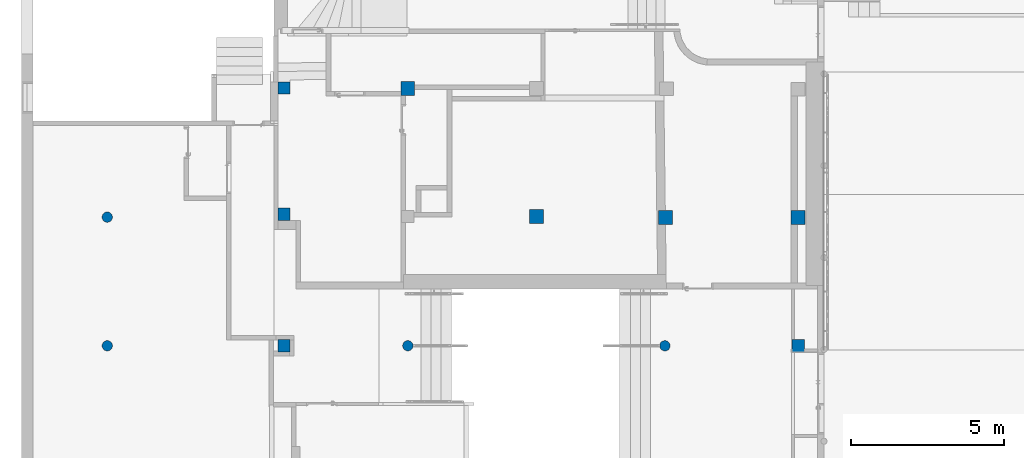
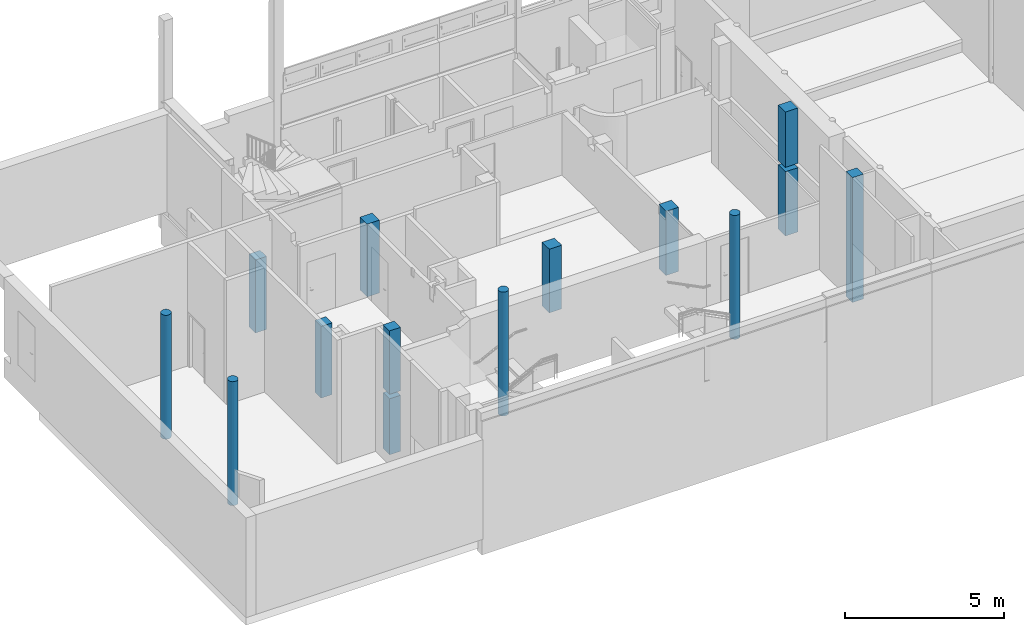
# One storey, part 1 of 39: 12 columns.
"""IFC4 building model written with IfcOpenShell, lengths in metres."""

from ifc_helpers import new_model, entity, si_unit, converted_unit, derived_unit, direction, frame, origin, place, context, subcontext, project, spatial, indexed_curve, outline, extrude, source, transform, mapped, material, type_object, type_shapes, element, save


model = new_model("IFC4")

# Units and contexts
model_context = context("Model", 3, precision=1e-05, world=origin(), true_north=direction((6.12303176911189e-17, 1.0)))
body_context = subcontext(model_context, "Body", "Model", "MODEL_VIEW")
ifc_project = project(units=[si_unit("LENGTHUNIT", "METRE"), si_unit("AREAUNIT", "SQUARE_METRE"), si_unit("VOLUMEUNIT", "CUBIC_METRE"), converted_unit("PLANEANGLEUNIT", "DEGREE", entity("IfcRatioMeasure", 0.0174532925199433), si_unit("PLANEANGLEUNIT", "RADIAN"), dimensions=[0, 0, 0, 0, 0, 0, 0]), si_unit("MASSUNIT", "GRAM", prefix="KILO"), derived_unit("MASSDENSITYUNIT", [(si_unit("MASSUNIT", "GRAM", prefix="KILO"), 1), (si_unit("LENGTHUNIT", "METRE"), -3)]), derived_unit("MOMENTOFINERTIAUNIT", [(si_unit("LENGTHUNIT", "METRE"), 4)]), si_unit("TIMEUNIT", "SECOND"), si_unit("FREQUENCYUNIT", "HERTZ"), si_unit("THERMODYNAMICTEMPERATUREUNIT", "DEGREE_CELSIUS"), derived_unit("THERMALTRANSMITTANCEUNIT", [(si_unit("MASSUNIT", "GRAM", prefix="KILO"), 1), (si_unit("THERMODYNAMICTEMPERATUREUNIT", "KELVIN"), -1), (si_unit("TIMEUNIT", "SECOND"), -3)]), derived_unit("VOLUMETRICFLOWRATEUNIT", [(si_unit("LENGTHUNIT", "METRE"), 3), (si_unit("TIMEUNIT", "SECOND"), -1)]), si_unit("ELECTRICCURRENTUNIT", "AMPERE"), si_unit("ELECTRICVOLTAGEUNIT", "VOLT"), si_unit("POWERUNIT", "WATT"), si_unit("FORCEUNIT", "NEWTON", prefix="KILO"), si_unit("ILLUMINANCEUNIT", "LUX"), si_unit("LUMINOUSFLUXUNIT", "LUMEN"), si_unit("LUMINOUSINTENSITYUNIT", "CANDELA"), derived_unit("USERDEFINED", [(si_unit("MASSUNIT", "GRAM", prefix="KILO"), -1), (si_unit("LENGTHUNIT", "METRE"), -2), (si_unit("TIMEUNIT", "SECOND"), 3), (si_unit("LUMINOUSFLUXUNIT", "LUMEN"), 1)]), derived_unit("LINEARVELOCITYUNIT", [(si_unit("LENGTHUNIT", "METRE"), 1), (si_unit("TIMEUNIT", "SECOND"), -1)]), si_unit("PRESSUREUNIT", "PASCAL"), derived_unit("USERDEFINED", [(si_unit("LENGTHUNIT", "METRE"), -2), (si_unit("MASSUNIT", "GRAM", prefix="KILO"), 1), (si_unit("TIMEUNIT", "SECOND"), -2)]), derived_unit("LINEARFORCEUNIT", [(si_unit("MASSUNIT", "GRAM", prefix="KILO"), 1), (si_unit("LENGTHUNIT", "METRE"), 1), (si_unit("TIMEUNIT", "SECOND"), -2), (si_unit("LENGTHUNIT", "METRE"), -1)]), derived_unit("PLANARFORCEUNIT", [(si_unit("MASSUNIT", "GRAM", prefix="KILO"), 1), (si_unit("LENGTHUNIT", "METRE"), 1), (si_unit("TIMEUNIT", "SECOND"), -2), (si_unit("LENGTHUNIT", "METRE"), -2)])], contexts=[model_context])

# Site, building, storey
site_placement = place(None, origin())
site = spatial("IfcSite", under=ifc_project, at=site_placement, Name="Default", CompositionType="ELEMENT")
building_placement = place(site_placement, origin())
building = spatial("IfcBuilding", under=site, at=building_placement, Name="HOTEL CONSULAIRE BOULOGNE SUR MER", CompositionType="ELEMENT")
storey_placement = place(building_placement, frame((0.0, 0.0, -5.02343668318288)))
storey = spatial("IfcBuildingStorey", under=building, at=storey_placement, Name="SS3", CompositionType="ELEMENT", Elevation=-5.02343668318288)

# Columns
ifc_material = material(Name="Maçonnerie - Béton coulé sur place", Category="Béton")
column_type_1 = type_object("IfcColumnType", Name="Poteau béton - Arrondi:340", PredefinedType="COLUMN", material=ifc_material)
shared_shape_1 = source(origin(), body_context, "Body", "SweptSolid", [
    extrude(outline(indexed_curve([(0.169999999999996, -2.97350308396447e-16), (0.161679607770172, 0.0525328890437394), (0.137532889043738, 0.0999234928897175), (0.099923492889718, 0.137532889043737), (0.0525328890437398, 0.161679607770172), (1.86135598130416e-16, 0.169999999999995), (-0.0525328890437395, 0.161679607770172), (-0.0999234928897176, 0.137532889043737), (-0.137532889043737, 0.0999234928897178), (-0.161679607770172, 0.0525328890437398), (-0.169999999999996, 1.7643968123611e-16), (-0.161679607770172, -0.0525328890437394), (-0.137532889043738, -0.0999234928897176), (-0.0999234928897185, -0.137532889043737), (-0.0525328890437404, -0.161679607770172), (-8.18583797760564e-16, -0.169999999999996), (0.0525328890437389, -0.161679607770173), (0.0999234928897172, -0.137532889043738), (0.137532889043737, -0.099923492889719), (0.161679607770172, -0.052532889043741), (0.169999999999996, -2.97350308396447e-16)], self_intersect=False)), frame((0.0, 0.0, -5.02343668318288)), (0.0, 0.0, 1.0), 4.75343668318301),
])
type_shapes(column_type_1, [shared_shape_1])
for number, where in (
    (1, (7.17117677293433, -24.015909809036, 5.02343668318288)),
    (2, (-1.22882322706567, -24.015909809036, 5.02343668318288)),
    (3, (-11.0458232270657, -19.8159098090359, 5.02343668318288)),
):
    element("IfcColumn", number, at=place(storey_placement, frame(where)), inside=storey, type_object=column_type_1, material=ifc_material, Name="Poteau béton - Arrondi:340", ObjectType="Poteau béton - Arrondi:340", PredefinedType="COLUMN", context=body_context, shape_type="MappedRepresentation", body=[
        mapped(shared_shape_1, transform((0.0, 0.0, 0.0), scale=1.0)),
    ])
column_type_2 = type_object("IfcColumnType", Name="Poteau béton - Arrondi:340", PredefinedType="COLUMN", material=ifc_material)
shared_shape_2 = source(origin(), body_context, "Body", "SweptSolid", [
    extrude(outline(indexed_curve([(0.169999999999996, 0.0), (0.161679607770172, 0.0525328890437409), (0.137532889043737, 0.0999234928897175), (0.0999234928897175, 0.137532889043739), (0.0525328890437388, 0.161679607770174), (0.0, 0.169999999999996), (-0.0525328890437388, 0.161679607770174), (-0.0999234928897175, 0.137532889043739), (-0.137532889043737, 0.0999234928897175), (-0.161679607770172, 0.0525328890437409), (-0.169999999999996, 0.0), (-0.161679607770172, -0.0525328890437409), (-0.137532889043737, -0.0999234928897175), (-0.0999234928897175, -0.137532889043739), (-0.0525328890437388, -0.161679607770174), (0.0, -0.169999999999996), (0.0525328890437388, -0.161679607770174), (0.0999234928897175, -0.137532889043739), (0.137532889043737, -0.0999234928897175), (0.161679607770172, -0.0525328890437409), (0.169999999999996, 0.0)], self_intersect=False)), frame((-11.0458232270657, -24.0159098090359, -5.02343668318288)), (0.0, 0.0, 1.0), 4.75343668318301),
])
type_shapes(column_type_2, [shared_shape_2])
column_1_placement = place(storey_placement, frame((0.0, 0.0, 5.02343668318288)))
element("IfcColumn", 4, at=column_1_placement, inside=storey, type_object=column_type_2, material=ifc_material, Name="Poteau béton - Arrondi:340", ObjectType="Poteau béton - Arrondi:340", PredefinedType="COLUMN", context=body_context, shape_type="MappedRepresentation", body=[
    mapped(shared_shape_2, transform((0.0, 0.0, 0.0), scale=1.0)),
])
column_type_3 = type_object("IfcColumnType", Name="Poteau béton - Rectangulaire:400x400", PredefinedType="COLUMN", material=ifc_material)
shared_shape_3 = source(origin(), body_context, "Body", "SweptSolid", [
    extrude(outline(indexed_curve([(-0.199999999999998, -0.2), (0.200000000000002, -0.2), (0.199999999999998, 0.2), (-0.200000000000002, 0.2), (-0.199999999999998, -0.2)], self_intersect=False)), frame((-5.27550814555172, -19.7222313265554, -5.45343668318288), z_axis=(0.0, 0.0, 1.0), x_axis=(0.0, -1.0, 0.0)), (0.0, 0.0, 1.0), 2.74999999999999),
])
type_shapes(column_type_3, [shared_shape_3])
column_2_placement = place(storey_placement, frame((0.0, 0.0, 5.02343668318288)))
element("IfcColumn", 5, at=column_2_placement, inside=storey, type_object=column_type_3, material=ifc_material, Name="Poteau béton - Rectangulaire:400x400", ObjectType="Poteau béton - Rectangulaire:400x400", PredefinedType="COLUMN", context=body_context, shape_type="MappedRepresentation", body=[
    mapped(shared_shape_3, transform((0.0, 0.0, 0.0), scale=1.0)),
])
column_type_4 = type_object("IfcColumnType", Name="Poteau béton - Rectangulaire:450X450", PredefinedType="COLUMN", material=ifc_material)
shared_shape_4 = source(origin(), body_context, "Body", "SweptSolid", [
    extrude(outline(indexed_curve([(-0.225000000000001, -0.225), (0.225000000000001, -0.225), (0.225000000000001, 0.225), (-0.225000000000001, 0.225), (-0.225000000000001, -0.225)], self_intersect=False)), frame((2.97117677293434, -19.792909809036, -5.00143668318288), z_axis=(0.0, 0.0, 1.0), x_axis=(0.0, -1.0, 0.0)), (0.0, 0.0, 1.0), 2.44199999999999),
])
type_shapes(column_type_4, [shared_shape_4])
column_3_placement = place(storey_placement, frame((0.0, 0.0, 5.02343668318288)))
element("IfcColumn", 6, at=column_3_placement, inside=storey, type_object=column_type_4, material=ifc_material, Name="Poteau béton - Rectangulaire:450X450", ObjectType="Poteau béton - Rectangulaire:450X450", PredefinedType="COLUMN", context=body_context, shape_type="MappedRepresentation", body=[
    mapped(shared_shape_4, transform((0.0, 0.0, 0.0), scale=1.0)),
])
column_type_5 = type_object("IfcColumnType", Name="Poteau béton - Rectangulaire:450X450", PredefinedType="COLUMN", material=ifc_material)
shared_shape_5 = source(origin(), body_context, "Body", "SweptSolid", [
    extrude(outline(indexed_curve([(-0.225000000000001, -0.225), (0.224999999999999, -0.225), (0.225000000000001, 0.225), (-0.224999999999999, 0.225), (-0.225000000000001, -0.225)], self_intersect=False)), frame((-1.22882322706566, -15.615909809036, -5.45343668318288), z_axis=(0.0, 0.0, 1.0), x_axis=(0.0, -1.0, 0.0)), (0.0, 0.0, 1.0), 2.79499999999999),
])
type_shapes(column_type_5, [shared_shape_5])
column_4_placement = place(storey_placement, frame((0.0, 0.0, 5.02343668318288)))
element("IfcColumn", 7, at=column_4_placement, inside=storey, type_object=column_type_5, material=ifc_material, Name="Poteau béton - Rectangulaire:450X450", ObjectType="Poteau béton - Rectangulaire:450X450", PredefinedType="COLUMN", context=body_context, shape_type="MappedRepresentation", body=[
    mapped(shared_shape_5, transform((0.0, 0.0, 0.0), scale=1.0)),
])
column_type_6 = type_object("IfcColumnType", Name="Poteau béton - Rectangulaire:400x400", PredefinedType="COLUMN", material=ifc_material)
shared_shape_6 = source(origin(), body_context, "Body", "SweptSolid", [
    extrude(outline(indexed_curve([(-0.2, -0.2), (0.2, -0.2), (0.2, 0.2), (-0.2, 0.2), (-0.2, -0.2)], self_intersect=False)), frame((-5.27550814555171, -15.5952662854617, -5.45343668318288), z_axis=(0.0, 0.0, 1.0), x_axis=(0.0, -1.0, 0.0)), (0.0, 0.0, 1.0), 2.79499999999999),
])
type_shapes(column_type_6, [shared_shape_6])
column_5_placement = place(storey_placement, frame((0.0, 0.0, 5.02343668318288)))
element("IfcColumn", 8, at=column_5_placement, inside=storey, type_object=column_type_6, material=ifc_material, Name="Poteau béton - Rectangulaire:400x400", ObjectType="Poteau béton - Rectangulaire:400x400", PredefinedType="COLUMN", context=body_context, shape_type="MappedRepresentation", body=[
    mapped(shared_shape_6, transform((0.0, 0.0, 0.0), scale=1.0)),
])
column_type_7 = type_object("IfcColumnType", Name="Poteau béton - Rectangulaire:400x400", PredefinedType="COLUMN", material=ifc_material)
shared_shape_7 = source(origin(), body_context, "Body", "SweptSolid", [
    extrude(outline(indexed_curve([(-0.199999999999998, -0.2), (0.200000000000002, -0.2), (0.200000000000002, 0.2), (-0.199999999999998, 0.2), (-0.199999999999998, -0.2)], self_intersect=False)), frame((-5.27550814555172, -24.015909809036, -2.70343668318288), z_axis=(0.0, 0.0, 1.0), x_axis=(0.0, -1.0, 0.0)), (0.0, 0.0, 1.0), 2.43343668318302),
    extrude(outline(indexed_curve([(-0.199999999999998, -0.2), (0.200000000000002, -0.2), (0.200000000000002, 0.2), (-0.199999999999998, 0.2), (-0.199999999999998, -0.2)], self_intersect=False)), frame((-5.27550814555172, -24.015909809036, -5.02343668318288), z_axis=(0.0, 0.0, 1.0), x_axis=(0.0, -1.0, 0.0)), (0.0, 0.0, 1.0), 2.14999999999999),
])
type_shapes(column_type_7, [shared_shape_7])
column_6_placement = place(storey_placement, frame((0.0, 0.0, 5.02343668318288)))
element("IfcColumn", 9, at=column_6_placement, inside=storey, type_object=column_type_7, material=ifc_material, Name="Poteau béton - Rectangulaire:400x400", ObjectType="Poteau béton - Rectangulaire:400x400", PredefinedType="COLUMN", context=body_context, shape_type="MappedRepresentation", body=[
    mapped(shared_shape_7, transform((0.0, 0.0, 0.0), scale=1.0)),
])
column_type_8 = type_object("IfcColumnType", Name="Poteau béton - Rectangulaire:450X450", PredefinedType="COLUMN", material=ifc_material)
shared_shape_8 = source(origin(), body_context, "Body", "SweptSolid", [
    extrude(outline(indexed_curve([(-0.225000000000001, -0.225000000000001), (0.225000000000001, -0.225000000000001), (0.225000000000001, 0.224999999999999), (-0.225000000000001, 0.225000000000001), (-0.225000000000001, -0.225000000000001)], self_intersect=False)), frame((11.5172587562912, -19.8292000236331, -5.02343668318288), z_axis=(0.0, 0.0, 1.0), x_axis=(0.0, -1.0, 0.0)), (0.0, 0.0, 1.0), 2.46399047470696),
    extrude(outline(indexed_curve([(-0.225000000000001, -0.225000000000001), (0.225000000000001, -0.225000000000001), (0.225000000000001, 0.224999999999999), (-0.225000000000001, 0.225000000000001), (-0.225000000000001, -0.225000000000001)], self_intersect=False)), frame((11.5172587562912, -19.8292000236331, -2.38944620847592), z_axis=(0.0, 0.0, 1.0), x_axis=(0.0, -1.0, 0.0)), (0.0, 0.0, 1.0), 2.11944620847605),
])
type_shapes(column_type_8, [shared_shape_8])
column_7_placement = place(storey_placement, frame((0.0, 0.0, 5.02343668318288)))
element("IfcColumn", 10, at=column_7_placement, inside=storey, type_object=column_type_8, material=ifc_material, Name="Poteau béton - Rectangulaire:450X450", ObjectType="Poteau béton - Rectangulaire:450X450", PredefinedType="COLUMN", context=body_context, shape_type="MappedRepresentation", body=[
    mapped(shared_shape_8, transform((0.0, 0.0, 0.0), scale=1.0)),
])
column_type_9 = type_object("IfcColumnType", Name="Poteau béton - Rectangulaire:450X450", PredefinedType="COLUMN", material=ifc_material)
shared_shape_9 = source(origin(), body_context, "Body", "SweptSolid", [
    extrude(outline(indexed_curve([(-0.225000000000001, -0.225000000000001), (0.225000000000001, -0.225000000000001), (0.225000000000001, 0.224999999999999), (-0.225000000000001, 0.224999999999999), (-0.225000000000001, -0.225000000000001)], self_intersect=False)), frame((7.18694096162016, -19.8292000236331, -5.02343668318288), z_axis=(0.0, 0.0, 1.0), x_axis=(0.0, -1.0, 0.0)), (0.0, 0.0, 1.0), 2.46399999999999),
])
type_shapes(column_type_9, [shared_shape_9])
column_8_placement = place(storey_placement, frame((0.0, 0.0, 5.02343668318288)))
element("IfcColumn", 11, at=column_8_placement, inside=storey, type_object=column_type_9, material=ifc_material, Name="Poteau béton - Rectangulaire:450X450", ObjectType="Poteau béton - Rectangulaire:450X450", PredefinedType="COLUMN", context=body_context, shape_type="MappedRepresentation", body=[
    mapped(shared_shape_9, transform((0.0, 0.0, 0.0), scale=1.0)),
])
column_type_10 = type_object("IfcColumnType", Name="Poteau béton - Rectangulaire:400x400", PredefinedType="COLUMN", material=ifc_material)
shared_shape_10 = source(origin(), body_context, "Body", "SweptSolid", [
    extrude(outline(indexed_curve([(-0.199999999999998, -0.2), (0.200000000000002, -0.2), (0.199999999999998, 0.2), (-0.200000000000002, 0.2), (-0.199999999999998, -0.2)], self_intersect=False)), frame((11.5209033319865, -24.015909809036, -5.06343668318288), z_axis=(0.0, 0.0, 1.0), x_axis=(0.0, -1.0, 0.0)), (0.0, 0.0, 1.0), 4.79343668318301),
])
type_shapes(column_type_10, [shared_shape_10])
column_9_placement = place(storey_placement, frame((0.0, 0.0, 5.02343668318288)))
element("IfcColumn", 12, at=column_9_placement, inside=storey, type_object=column_type_10, material=ifc_material, Name="Poteau béton - Rectangulaire:400x400", ObjectType="Poteau béton - Rectangulaire:400x400", PredefinedType="COLUMN", context=body_context, shape_type="MappedRepresentation", body=[
    mapped(shared_shape_10, transform((0.0, 0.0, 0.0), scale=1.0)),
])

save(model, "model.ifc")
